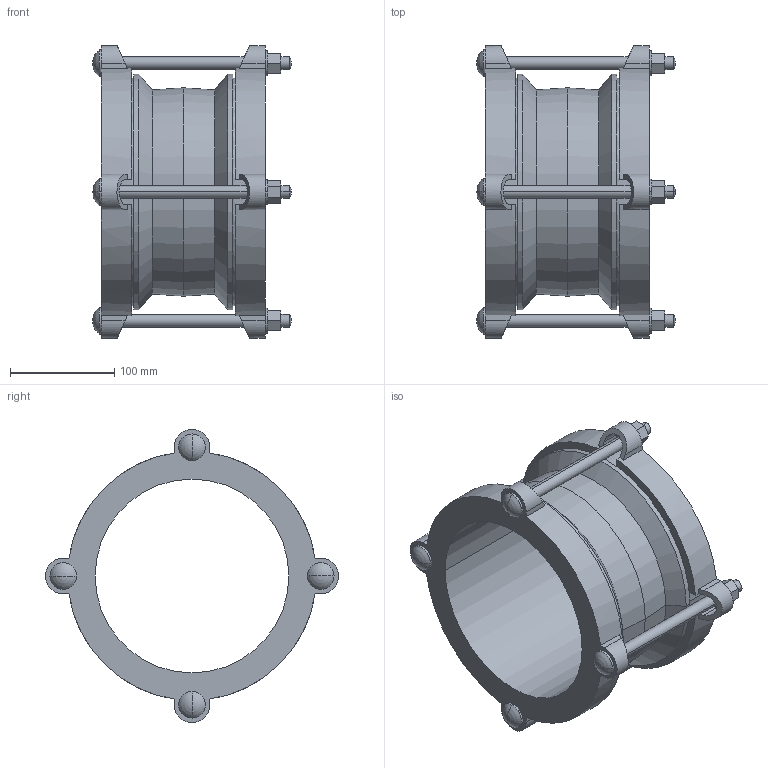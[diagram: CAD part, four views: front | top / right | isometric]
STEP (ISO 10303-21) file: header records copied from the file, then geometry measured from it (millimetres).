
FILE_DESCRIPTION((''),'2;1');
FILE_NAME('BIM_12393_7','2018-08-31T',('MReader'),(''),'CREO PARAMETRIC BY PTC INC, 2016130','CREO PARAMETRIC BY PTC INC, 2016130','');
FILE_SCHEMA(('CONFIG_CONTROL_DESIGN'));
Length unit declared in the file: millimetre
Products named in the file (1): BIM_12393_7
Bounding box: 190.33 x 280.5 x 280.5 mm (x, y, z)
Volume: 1708909.5 mm3; surface area: 316360.7 mm2
Topology: 1 solids, 1 shells, 198 faces, 516 edges, 322 vertices
Faces by surface type: plane 108, cylinder 66, sphere 16, cone 8
Entity records: 6160 total; most frequent: CARTESIAN_POINT 1212, DIRECTION 1050, ORIENTED_EDGE 1000, EDGE_CURVE 500, AXIS2_PLACEMENT_3D 368, VERTEX_POINT 322, VECTOR 314, LINE 314
